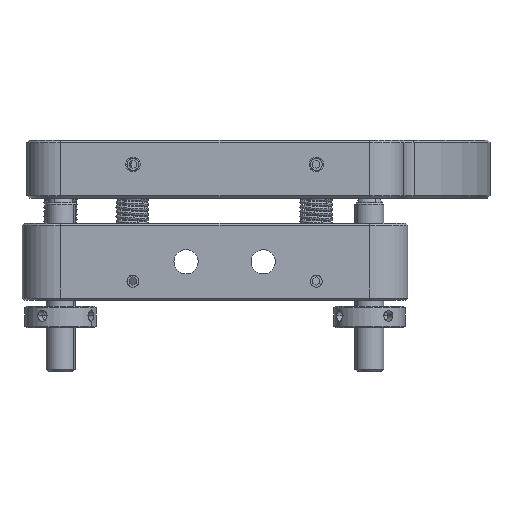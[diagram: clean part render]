
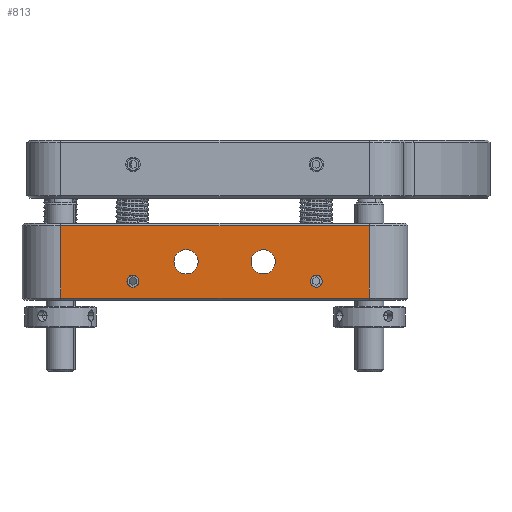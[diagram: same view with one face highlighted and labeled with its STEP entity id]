
A CAD part, front view. The second image highlights one B-rep face of the part: STEP entity #813.
In plain terms, the highlighted planar face has unit normal (0, -1, 0).
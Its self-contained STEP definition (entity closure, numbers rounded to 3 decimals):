
#82 = CARTESIAN_POINT ( 'NONE',  ( -22., -45., -2.75 ) ) ;
#393 = AXIS2_PLACEMENT_3D ( 'NONE', #26301, #11761, #25684 ) ;
#401 = CARTESIAN_POINT ( 'NONE',  ( -22., -45., -4. ) ) ;
#425 = FACE_OUTER_BOUND ( 'NONE', #12061, .T. ) ;
#441 = ORIENTED_EDGE ( 'NONE', *, *, #1714, .T. ) ;
#706 = DIRECTION ( 'NONE',  ( 0., -1., 0. ) ) ;
#813 = ADVANCED_FACE ( 'NONE', ( #29662, #22011, #5895, #24353, #425 ), #7619, .F. ) ;
#875 = VERTEX_POINT ( 'NONE', #29196 ) ;
#1104 = AXIS2_PLACEMENT_3D ( 'NONE', #14032, #2281, #11828 ) ;
#1714 = EDGE_CURVE ( 'NONE', #16040, #20306, #4588, .T. ) ;
#1763 = LINE ( 'NONE', #6603, #8085 ) ;
#2281 = DIRECTION ( 'NONE',  ( 0., 1., 0. ) ) ;
#2732 = CARTESIAN_POINT ( 'NONE',  ( 16., -45., -4. ) ) ;
#2982 = DIRECTION ( 'NONE',  ( 0., -1., 0. ) ) ;
#3111 = ORIENTED_EDGE ( 'NONE', *, *, #15881, .T. ) ;
#3229 = CIRCLE ( 'NONE', #11721, 1.25 ) ;
#3349 = EDGE_LOOP ( 'NONE', ( #13414, #29653 ) ) ;
#3420 = VERTEX_POINT ( 'NONE', #18862 ) ;
#3458 = EDGE_CURVE ( 'NONE', #14114, #6664, #7583, .T. ) ;
#3506 = ORIENTED_EDGE ( 'NONE', *, *, #27165, .T. ) ;
#3907 = ORIENTED_EDGE ( 'NONE', *, *, #24138, .T. ) ;
#4269 = DIRECTION ( 'NONE',  ( 0., 0., -1. ) ) ;
#4588 = LINE ( 'NONE', #28654, #16517 ) ;
#4955 = VECTOR ( 'NONE', #18553, 1000. ) ;
#5088 = DIRECTION ( 'NONE',  ( 0., 0., 1. ) ) ;
#5329 = DIRECTION ( 'NONE',  ( 0., 0., -1. ) ) ;
#5399 = DIRECTION ( 'NONE',  ( 0., 0., -1. ) ) ;
#5814 = DIRECTION ( 'NONE',  ( 0., 0., 1. ) ) ;
#5895 = FACE_BOUND ( 'NONE', #7346, .T. ) ;
#6137 = VECTOR ( 'NONE', #22173, 1000. ) ;
#6592 = ORIENTED_EDGE ( 'NONE', *, *, #18476, .F. ) ;
#6603 = CARTESIAN_POINT ( 'NONE',  ( -37., -45., 8. ) ) ;
#6664 = VERTEX_POINT ( 'NONE', #27005 ) ;
#7346 = EDGE_LOOP ( 'NONE', ( #24580, #3506 ) ) ;
#7583 = CIRCLE ( 'NONE', #1104, 2.5 ) ;
#7619 = PLANE ( 'NONE',  #22489 ) ;
#7986 = CARTESIAN_POINT ( 'NONE',  ( 16., -45., -4. ) ) ;
#8085 = VECTOR ( 'NONE', #4269, 1000. ) ;
#8310 = CARTESIAN_POINT ( 'NONE',  ( -11., -45., 0. ) ) ;
#8334 = EDGE_CURVE ( 'NONE', #6664, #14114, #12833, .T. ) ;
#8894 = CIRCLE ( 'NONE', #393, 1.25 ) ;
#9307 = LINE ( 'NONE', #14324, #4955 ) ;
#9942 = DIRECTION ( 'NONE',  ( 0., -1., 0. ) ) ;
#9968 = CARTESIAN_POINT ( 'NONE',  ( -45., -45., 8. ) ) ;
#10300 = VERTEX_POINT ( 'NONE', #19952 ) ;
#10485 = AXIS2_PLACEMENT_3D ( 'NONE', #7986, #2982, #5329 ) ;
#10789 = DIRECTION ( 'NONE',  ( -1., 0., 0. ) ) ;
#11721 = AXIS2_PLACEMENT_3D ( 'NONE', #2732, #706, #5399 ) ;
#11761 = DIRECTION ( 'NONE',  ( 0., -1., 0. ) ) ;
#11771 = CARTESIAN_POINT ( 'NONE',  ( -11., -45., -2.5 ) ) ;
#11828 = DIRECTION ( 'NONE',  ( 0., 0., 1. ) ) ;
#12061 = EDGE_LOOP ( 'NONE', ( #3907, #3111, #15557, #441 ) ) ;
#12833 = CIRCLE ( 'NONE', #25290, 2.5 ) ;
#12861 = DIRECTION ( 'NONE',  ( 0., 1., 0. ) ) ;
#13236 = CIRCLE ( 'NONE', #26185, 2.5 ) ;
#13414 = ORIENTED_EDGE ( 'NONE', *, *, #27297, .F. ) ;
#14032 = CARTESIAN_POINT ( 'NONE',  ( -11., -45., 0. ) ) ;
#14114 = VERTEX_POINT ( 'NONE', #11771 ) ;
#14324 = CARTESIAN_POINT ( 'NONE',  ( -45., -45., -7.5 ) ) ;
#14707 = CARTESIAN_POINT ( 'NONE',  ( 16., -45., -5.25 ) ) ;
#14750 = VERTEX_POINT ( 'NONE', #15339 ) ;
#14787 = CARTESIAN_POINT ( 'NONE',  ( 5., -45., 0. ) ) ;
#15339 = CARTESIAN_POINT ( 'NONE',  ( 16., -45., -2.75 ) ) ;
#15557 = ORIENTED_EDGE ( 'NONE', *, *, #26351, .T. ) ;
#15881 = EDGE_CURVE ( 'NONE', #29792, #875, #9307, .T. ) ;
#16016 = EDGE_CURVE ( 'NONE', #10300, #19953, #29424, .T. ) ;
#16040 = VERTEX_POINT ( 'NONE', #30876 ) ;
#16422 = CARTESIAN_POINT ( 'NONE',  ( 5., -45., -2.5 ) ) ;
#16517 = VECTOR ( 'NONE', #10789, 1000. ) ;
#16943 = EDGE_CURVE ( 'NONE', #14750, #25061, #25446, .T. ) ;
#17111 = ORIENTED_EDGE ( 'NONE', *, *, #8334, .T. ) ;
#17165 = DIRECTION ( 'NONE',  ( 0., 1., 0. ) ) ;
#17992 = ORIENTED_EDGE ( 'NONE', *, *, #3458, .T. ) ;
#18476 = EDGE_CURVE ( 'NONE', #3420, #19765, #19487, .T. ) ;
#18553 = DIRECTION ( 'NONE',  ( 1., 0., 0. ) ) ;
#18862 = CARTESIAN_POINT ( 'NONE',  ( -22., -45., -5.25 ) ) ;
#19482 = DIRECTION ( 'NONE',  ( 0., 0., -1. ) ) ;
#19487 = CIRCLE ( 'NONE', #23989, 1.25 ) ;
#19670 = DIRECTION ( 'NONE',  ( 0., 0., 1. ) ) ;
#19765 = VERTEX_POINT ( 'NONE', #82 ) ;
#19944 = AXIS2_PLACEMENT_3D ( 'NONE', #21350, #24009, #28694 ) ;
#19952 = CARTESIAN_POINT ( 'NONE',  ( 5., -45., 2.5 ) ) ;
#19953 = VERTEX_POINT ( 'NONE', #16422 ) ;
#20306 = VERTEX_POINT ( 'NONE', #23344 ) ;
#21230 = LINE ( 'NONE', #30752, #6137 ) ;
#21350 = CARTESIAN_POINT ( 'NONE',  ( 5., -45., 0. ) ) ;
#22011 = FACE_BOUND ( 'NONE', #3349, .T. ) ;
#22173 = DIRECTION ( 'NONE',  ( 0., 0., 1. ) ) ;
#22489 = AXIS2_PLACEMENT_3D ( 'NONE', #9968, #17165, #19670 ) ;
#23344 = CARTESIAN_POINT ( 'NONE',  ( -37., -45., 7.5 ) ) ;
#23989 = AXIS2_PLACEMENT_3D ( 'NONE', #401, #9942, #19482 ) ;
#24009 = DIRECTION ( 'NONE',  ( 0., 1., 0. ) ) ;
#24138 = EDGE_CURVE ( 'NONE', #20306, #29792, #1763, .T. ) ;
#24353 = FACE_BOUND ( 'NONE', #25080, .T. ) ;
#24478 = DIRECTION ( 'NONE',  ( 0., 1., 0. ) ) ;
#24580 = ORIENTED_EDGE ( 'NONE', *, *, #16016, .T. ) ;
#25061 = VERTEX_POINT ( 'NONE', #14707 ) ;
#25080 = EDGE_LOOP ( 'NONE', ( #17111, #17992 ) ) ;
#25290 = AXIS2_PLACEMENT_3D ( 'NONE', #8310, #12861, #5814 ) ;
#25446 = CIRCLE ( 'NONE', #10485, 1.25 ) ;
#25622 = EDGE_LOOP ( 'NONE', ( #6592, #27965 ) ) ;
#25684 = DIRECTION ( 'NONE',  ( 0., 0., -1. ) ) ;
#26185 = AXIS2_PLACEMENT_3D ( 'NONE', #14787, #24478, #5088 ) ;
#26301 = CARTESIAN_POINT ( 'NONE',  ( -22., -45., -4. ) ) ;
#26351 = EDGE_CURVE ( 'NONE', #875, #16040, #21230, .T. ) ;
#27005 = CARTESIAN_POINT ( 'NONE',  ( -11., -45., 2.5 ) ) ;
#27165 = EDGE_CURVE ( 'NONE', #19953, #10300, #13236, .T. ) ;
#27297 = EDGE_CURVE ( 'NONE', #25061, #14750, #3229, .T. ) ;
#27965 = ORIENTED_EDGE ( 'NONE', *, *, #28244, .F. ) ;
#28244 = EDGE_CURVE ( 'NONE', #19765, #3420, #8894, .T. ) ;
#28654 = CARTESIAN_POINT ( 'NONE',  ( -37., -45., 7.5 ) ) ;
#28694 = DIRECTION ( 'NONE',  ( 0., 0., 1. ) ) ;
#29196 = CARTESIAN_POINT ( 'NONE',  ( 27., -45., -7.5 ) ) ;
#29313 = CARTESIAN_POINT ( 'NONE',  ( -37., -45., -7.5 ) ) ;
#29424 = CIRCLE ( 'NONE', #19944, 2.5 ) ;
#29653 = ORIENTED_EDGE ( 'NONE', *, *, #16943, .F. ) ;
#29662 = FACE_BOUND ( 'NONE', #25622, .T. ) ;
#29792 = VERTEX_POINT ( 'NONE', #29313 ) ;
#30752 = CARTESIAN_POINT ( 'NONE',  ( 27., -45., 8. ) ) ;
#30876 = CARTESIAN_POINT ( 'NONE',  ( 27., -45., 7.5 ) ) ;
